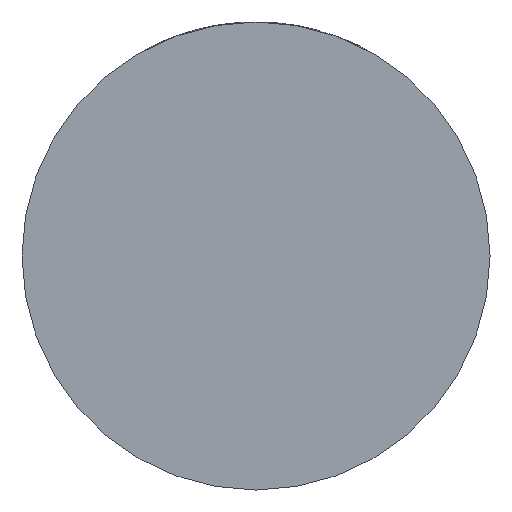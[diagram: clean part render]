
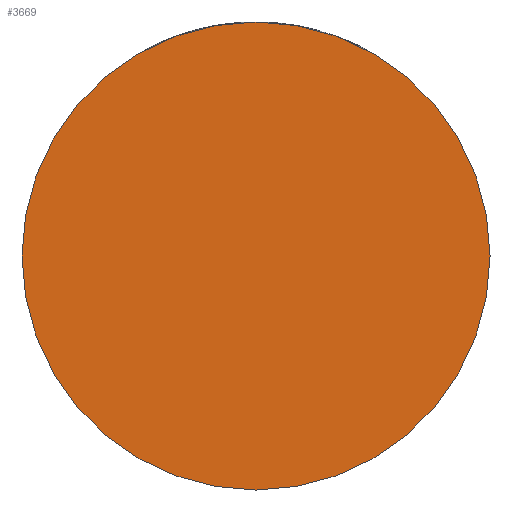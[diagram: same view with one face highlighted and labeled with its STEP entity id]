
A CAD part, front view. The second image highlights one B-rep face of the part: STEP entity #3669.
In plain terms, the highlighted planar face has unit normal (0, -1, 0).
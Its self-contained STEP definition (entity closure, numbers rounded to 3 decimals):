
#128 = EDGE_CURVE ( 'NONE', #969, #1277, #974, .T. ) ;
#150 = FACE_OUTER_BOUND ( 'NONE', #1071, .T. ) ;
#944 = CARTESIAN_POINT ( 'NONE',  ( 0., -36., 0. ) ) ;
#969 = VERTEX_POINT ( 'NONE', #1546 ) ;
#974 = CIRCLE ( 'NONE', #1943, 39. ) ;
#1062 = CIRCLE ( 'NONE', #2196, 39. ) ;
#1071 = EDGE_LOOP ( 'NONE', ( #1650, #1094 ) ) ;
#1094 = ORIENTED_EDGE ( 'NONE', *, *, #128, .T. ) ;
#1277 = VERTEX_POINT ( 'NONE', #2401 ) ;
#1546 = CARTESIAN_POINT ( 'NONE',  ( 39., -36., 0. ) ) ;
#1597 = DIRECTION ( 'NONE',  ( 1., 0., 0. ) ) ;
#1613 = EDGE_CURVE ( 'NONE', #1277, #969, #1062, .T. ) ;
#1650 = ORIENTED_EDGE ( 'NONE', *, *, #1613, .T. ) ;
#1722 = DIRECTION ( 'NONE',  ( 1., 0., 0. ) ) ;
#1943 = AXIS2_PLACEMENT_3D ( 'NONE', #5029, #3048, #1597 ) ;
#2116 = CARTESIAN_POINT ( 'NONE',  ( 0., -36., 0. ) ) ;
#2163 = DIRECTION ( 'NONE',  ( 1., 0., 0. ) ) ;
#2196 = AXIS2_PLACEMENT_3D ( 'NONE', #2116, #3667, #2163 ) ;
#2401 = CARTESIAN_POINT ( 'NONE',  ( -39., -36., 0. ) ) ;
#3048 = DIRECTION ( 'NONE',  ( 0., -1., 0. ) ) ;
#3631 = DIRECTION ( 'NONE',  ( 0., -1., 0. ) ) ;
#3667 = DIRECTION ( 'NONE',  ( 0., -1., 0. ) ) ;
#3669 = ADVANCED_FACE ( 'NONE', ( #150 ), #4011, .T. ) ;
#4011 = PLANE ( 'NONE',  #4470 ) ;
#4470 = AXIS2_PLACEMENT_3D ( 'NONE', #944, #3631, #1722 ) ;
#5029 = CARTESIAN_POINT ( 'NONE',  ( 0., -36., 0. ) ) ;
